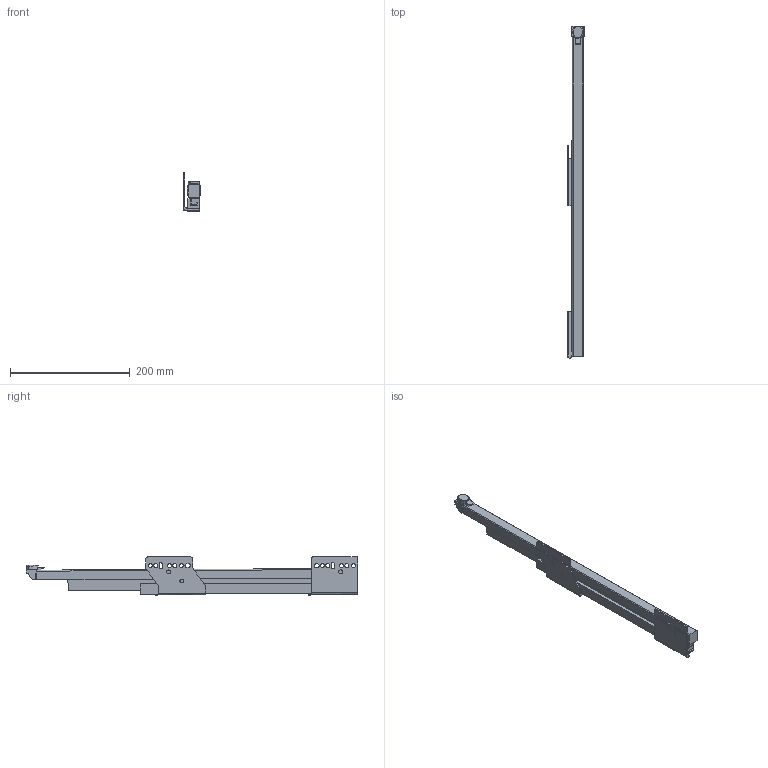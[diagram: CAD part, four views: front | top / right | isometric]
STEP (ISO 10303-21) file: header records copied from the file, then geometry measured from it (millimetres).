
FILE_DESCRIPTION (( 'STEP AP214' ), '1' );
FILE_NAME ('_IMOS_NOVA-Pro_KS_TL_EB29mm_LI_NL550.step', '2010-07-15T11:34:52', ( 'grass' ), ( '' ), 'SwSTEP 2.0', 'SolidWorks 2009', '' );
FILE_SCHEMA (( 'AUTOMOTIVE_DESIGN' ));
Length unit declared in the file: millimetre
Products named in the file (1): _IMOS_NOVA-Pro_KS_TL_EB29mm_LI_NL550
Bounding box: 27.9 x 555.55 x 64.46 mm (x, y, z)
Volume: 378105.5 mm3; surface area: 158675 mm2
Topology: 8 solids, 8 shells, 185 faces, 496 edges, 328 vertices
Faces by surface type: plane 116, cylinder 64, torus 5
Entity records: 5964 total; most frequent: CARTESIAN_POINT 1097, ORIENTED_EDGE 992, DIRECTION 972, EDGE_CURVE 496, VECTOR 350, LINE 350, VERTEX_POINT 328, AXIS2_PLACEMENT_3D 311
